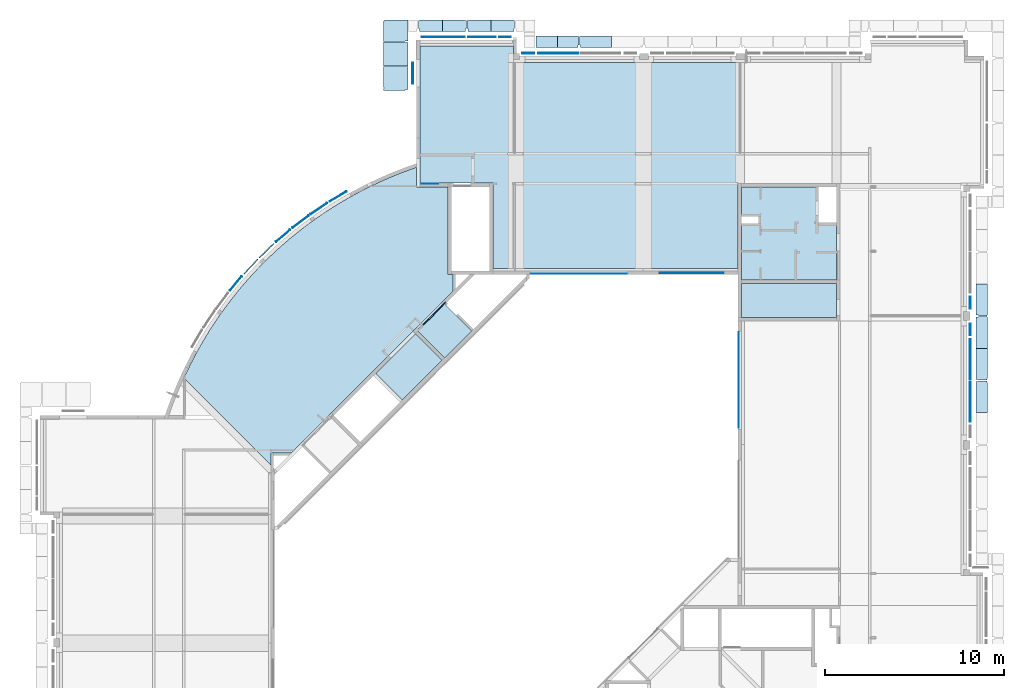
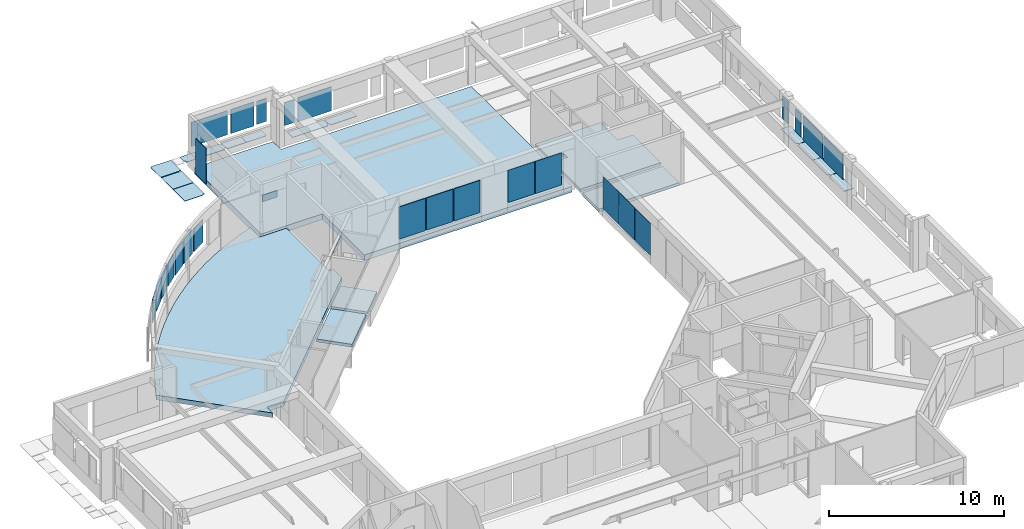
# One storey, part 8 of 26: 27 plates, 21 slabs, 1 element without a shape of its own.
"""IFC4X3_ADD2 building model written with IfcOpenShell, lengths in millimetres."""

from ifc_helpers import new_model, si_unit, point, direction, frame, frame_2d, origin_with_axes, origin_2d_with_axis, place, context, subcontext, project, spatial, polyline, circle_curve, trimmed, segment, composite_curve, rectangle, outline, extrude, source, transform, mapped, material, type_object, element, aggregate, save


model = new_model("IFC4X3_ADD2")

# Units and contexts
model_context = context("Model", 3, precision=1e-05, world=origin_with_axes(), true_north=direction((0.0, 1.0)))
body_context = subcontext(model_context, "Body", "Model", "MODEL_VIEW")
ifc_project = project(units=[si_unit("LENGTHUNIT", "METRE", prefix="MILLI"), si_unit("AREAUNIT", "SQUARE_METRE"), si_unit("VOLUMEUNIT", "CUBIC_METRE"), si_unit("PLANEANGLEUNIT", "RADIAN"), si_unit("TIMEUNIT", "SECOND"), si_unit("MASSUNIT", "GRAM")], contexts=[model_context])

# Site, building, storey
site_placement = place(None, origin_with_axes())
site = spatial("IfcSite", under=ifc_project, at=site_placement, Name="Site", CompositionType="ELEMENT")
building_placement = place(site_placement, origin_with_axes())
building = spatial("IfcBuilding", under=site, at=building_placement, Name="IFC Building Story")
storey_placement = place(building_placement, frame((0.0, 0.0, 7200.0), z_axis=(0.0, 0.0, 1.0), x_axis=(1.0, 0.0, 0.0)))
storey = spatial("IfcBuildingStorey", under=building, at=storey_placement, Name="020", Elevation=7200.0)

# Slabs
ifc_material_1 = material(Name="BB_Beton_Bestaand")
slab_type_1 = type_object("IfcSlabType", Name="BB_Beton_Bestaand 200", PredefinedType="FLOOR", material=ifc_material_1)
slab_1_placement = place(storey_placement, frame((-12500.00406588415, 38300.00000000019, -280.0), z_axis=(0.0, 0.0, 1.0), x_axis=(1.0, 0.0, 0.0)))
element("IfcSlab", 1, at=slab_1_placement, inside=storey, type_object=slab_type_1, Name="Floor:BB_XX_Vloer uit beton, 200 mm", ObjectType="Floor:BB_XX_Vloer uit beton, 200 mm", PredefinedType="FLOOR", context=body_context, shape_type="SweptSolid", body=[
    extrude(outline(polyline([(3190.002439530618, 181.9999999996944), (3190.002439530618, -3017.999999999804), (-2110.001626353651, -3017.999999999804), (-2110.001626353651, 122.0000000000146), (-1160.001626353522, 122.0000000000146), (-1160.001626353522, 532.0000000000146), (-2110.001626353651, 532.0000000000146), (-2110.001626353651, 2182.000000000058), (2190.002439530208, 2182.000000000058), (2190.002439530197, 181.9999999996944), (3190.002439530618, 181.9999999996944)])), frame((2110.001626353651, 3017.999999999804, 0.0), z_axis=(0.0, 0.0, 1.0), x_axis=(1.0, 0.0, 0.0)), (0.0, 0.0, 1.0), 200.0),
])
slab_2_placement = place(storey_placement, frame((-12500.00406588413, 36199.99999999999, -400.0), z_axis=(0.0, 0.0, 1.0), x_axis=(1.0, 0.0, 0.0)))
element("IfcSlab", 2, at=slab_2_placement, inside=storey, type_object=slab_type_1, Name="Floor:BB_XX_Vloer uit beton, 200 mm", ObjectType="Floor:BB_XX_Vloer uit beton, 200 mm", PredefinedType="FLOOR", context=body_context, shape_type="SweptSolid", body=[
    extrude(rectangle(XDim=5300.004065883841, YDim=1900.000000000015, at=origin_2d_with_axis()), frame((2650.00203294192, 950.0000000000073, 0.0), z_axis=(0.0, 0.0, 1.0), x_axis=(1.0, 0.0, 0.0)), (0.0, 0.0, 1.0), 200.0),
])
for number, where, z_axis, x_axis in (
    (3, (-30719.00667860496, 35293.98755288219, -400.0), (0.0, 0.0, 1.0), (-0.7071067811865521, -0.707106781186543, 0.0)),
    (4, (-30719.00667860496, 35293.98755288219, -400.0), (0.0, 0.0, 1.0), (-0.7071067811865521, -0.707106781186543, 0.0)),
):
    element("IfcSlab", number, at=place(storey_placement, frame(where, z_axis=z_axis, x_axis=x_axis)), inside=storey, type_object=slab_type_1, Name="Floor:BB_XX_Vloer uit beton, 200 mm", ObjectType="Floor:BB_XX_Vloer uit beton, 200 mm", PredefinedType="FLOOR", context=body_context, shape_type="SweptSolid", body=[
        extrude(rectangle(XDim=3139.999999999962, YDim=2099.99999999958, at=frame_2d((0.0, 0.0), x_axis=(-1.0, 0.0))), frame((1569.999999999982, 1049.999999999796, 0.0), z_axis=(0.0, 0.0, 1.0), x_axis=(1.0, 0.0, 0.0)), (0.0, 0.0, 1.0), 200.0),
    ])
slab_type_2 = type_object("IfcSlabType", Name="BB_Beton_Bestaand 400", PredefinedType="FLOOR", material=ifc_material_1)
slab_3_placement = place(storey_placement, frame((-30470.00000006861, 38945.00000000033, -600.0), z_axis=(0.0, 0.0, 1.0), x_axis=(1.0, 0.0, 0.0)))
element("IfcSlab", 5, at=slab_3_placement, inside=storey, type_object=slab_type_2, Name="Floor:BB_XX_Vloer welfsels, 400 mm", ObjectType="Floor:BB_XX_Vloer welfsels, 400 mm", PredefinedType="FLOOR", context=body_context, shape_type="SweptSolid", body=[
    extrude(outline(polyline([(-2692.49898351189, -7168.749999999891), (-2692.498983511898, -2413.749999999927), (-6762.498983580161, -2413.749999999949), (-6762.498983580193, 5241.24999999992), (-1552.498983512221, 5241.249999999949), (-1552.498983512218, 4341.249999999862), (11007.49695060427, 4341.24999999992), (11007.49695060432, -7168.749999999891), (-2692.49898351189, -7168.749999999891)])), frame((6762.49898358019, 7168.749999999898, 0.0), z_axis=(0.0, 0.0, 1.0), x_axis=(1.0, 0.0, 0.0)), (0.0, 0.0, 1.0), 400.0),
])

# Plates
ifc_material_2 = material(Name="BB_Metaal_Aluminium_Buitenschrijnwerk")
shared_shape_1 = source(origin_with_axes(), body_context, "Body", "SweptSolid", [
    extrude(rectangle(XDim=2473.0, YDim=1164.000000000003, at=frame_2d((0.0, 0.0), x_axis=(0.0, 1.0))), frame((0.0, 0.0, -44.0), z_axis=(0.0, 0.0, 1.0), x_axis=(1.0, 0.0, 0.0)), (0.0, 0.0, 1.0), 44.0),
])
plate_1_placement = place(storey_placement, frame((-30897.4999999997, 49845.0, 1323.499999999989), z_axis=(-1.0, 0.0, 0.0), x_axis=(0.0, 1.0, 0.0)))
element("IfcPlate", 6, at=plate_1_placement, inside=storey, material=ifc_material_2, Name="BB_07.06_Buitenbeglazing, rechthoekig_GMO:07.04.63#01_Vulpaneel, 44 mm", ObjectType="BB_07.06_Buitenbeglazing, rechthoekig_GMO:07.04.63#01_Vulpaneel, 44 mm", PredefinedType="USERDEFINED", context=body_context, shape_type="MappedRepresentation", body=[
    mapped(shared_shape_1, transform((0.0, 0.0, 0.0))),
])
ifc_material_3 = material(Name="BB_Glas")
shared_shape_2 = source(origin_with_axes(), body_context, "Body", "SweptSolid", [
    extrude(rectangle(XDim=1602.000000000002, YDim=652.000000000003, at=frame_2d((0.0, 0.0), x_axis=(0.0, 1.0))), frame((0.0, 0.0, -44.0), z_axis=(0.0, 0.0, 1.0), x_axis=(1.0, 0.0, 0.0)), (0.0, 0.0, 1.0), 44.0),
])
plate_2_placement = place(storey_placement, frame((-25729.0, 51887.5000000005, 1765.0), z_axis=(0.0, 1.0, 0.0), x_axis=(-1.0, 0.0, 0.0)))
element("IfcPlate", 7, at=plate_2_placement, inside=storey, material=ifc_material_3, Name="BB_07.06_Buitenbeglazing, rechthoekig_GMO:07.06.72#01_Drievoudige beglazing, 44 mm, A/A*/A", ObjectType="BB_07.06_Buitenbeglazing, rechthoekig_GMO:07.06.72#01_Drievoudige beglazing, 44 mm, A/A*/A", PredefinedType="USERDEFINED", context=body_context, shape_type="MappedRepresentation", body=[
    mapped(shared_shape_2, transform((0.0, 0.0, 0.0))),
])
shared_shape_3 = source(origin_with_axes(), body_context, "Body", "SweptSolid", [
    extrude(rectangle(XDim=1602.000000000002, YDim=652.0000000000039, at=frame_2d((0.0, 0.0), x_axis=(0.0, 1.0))), frame((0.0, 0.0, -44.0), z_axis=(0.0, 0.0, 1.0), x_axis=(1.0, 0.0, 0.0)), (0.0, 0.0, 1.0), 44.0),
])
for number, where, z_axis, x_axis in (
    (8, (287.500000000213, 35536.0, 1765.0), (1.0, 0.0, 0.0), (0.0, -1.0, 0.0)),
    (9, (287.500000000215, 37024.0, 1765.0), (1.0, 0.0, 0.0), (0.0, -1.0, 0.0)),
    (10, (-24421.0, 50987.5000000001, 1765.0), (0.0, 1.0, 0.0), (1.0, 0.0, 0.0)),
):
    element("IfcPlate", number, at=place(storey_placement, frame(where, z_axis=z_axis, x_axis=x_axis)), inside=storey, material=ifc_material_3, Name="BB_07.06_Buitenbeglazing, rechthoekig_GMO:07.06.72#01_Drievoudige beglazing, 44 mm, A/A*/A", ObjectType="BB_07.06_Buitenbeglazing, rechthoekig_GMO:07.06.72#01_Drievoudige beglazing, 44 mm, A/A*/A", PredefinedType="USERDEFINED", context=body_context, shape_type="MappedRepresentation", body=[
        mapped(shared_shape_3, transform((0.0, 0.0, 0.0))),
    ])
shared_shape_4 = source(origin_with_axes(), body_context, "Body", "SweptSolid", [
    extrude(rectangle(XDim=1680.000000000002, YDim=1532.000000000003, at=frame_2d((0.0, 0.0), x_axis=(0.0, 1.0))), frame((0.0, 0.0, -44.0), z_axis=(0.0, 0.0, 1.0), x_axis=(1.0, 0.0, 0.0)), (0.0, 0.0, 1.0), 44.0),
])
plate_3_placement = place(storey_placement, frame((-26999.0, 51887.5000000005, 1765.0), z_axis=(0.0, 1.0, 0.0), x_axis=(-1.0, 0.0, 0.0)))
element("IfcPlate", 11, at=plate_3_placement, inside=storey, material=ifc_material_3, Name="BB_07.06_Buitenbeglazing, rechthoekig_GMO:07.06.72#01_Drievoudige beglazing, 44 mm, A/A*/A", ObjectType="BB_07.06_Buitenbeglazing, rechthoekig_GMO:07.06.72#01_Drievoudige beglazing, 44 mm, A/A*/A", PredefinedType="USERDEFINED", context=body_context, shape_type="MappedRepresentation", body=[
    mapped(shared_shape_4, transform((0.0, 0.0, 0.0))),
])
shared_shape_5 = source(origin_with_axes(), body_context, "Body", "SweptSolid", [
    extrude(rectangle(XDim=2400.0, YDim=1680.000000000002, at=origin_2d_with_axis()), frame((0.0, 0.0, -44.0), z_axis=(0.0, 0.0, 1.0), x_axis=(1.0, 0.0, 0.0)), (0.0, 0.0, 1.0), 44.0),
])
plate_4_placement = place(storey_placement, frame((-29165.0, 51887.5000000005, 1765.0), z_axis=(0.0, 1.0, 0.0), x_axis=(-1.0, 0.0, 0.0)))
element("IfcPlate", 12, at=plate_4_placement, inside=storey, material=ifc_material_3, Name="BB_07.06_Buitenbeglazing, rechthoekig_GMO:07.06.72#01_Drievoudige beglazing, 44 mm, A/A*/A", ObjectType="BB_07.06_Buitenbeglazing, rechthoekig_GMO:07.06.72#01_Drievoudige beglazing, 44 mm, A/A*/A", PredefinedType="USERDEFINED", context=body_context, shape_type="MappedRepresentation", body=[
    mapped(shared_shape_5, transform((0.0, 0.0, 0.0))),
])
shared_shape_6 = source(origin_with_axes(), body_context, "Body", "SweptSolid", [
    extrude(rectangle(XDim=2222.0, YDim=1680.000000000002, at=origin_2d_with_axis()), frame((0.0, 0.0, -44.0), z_axis=(0.0, 0.0, 1.0), x_axis=(1.0, 0.0, 0.0)), (0.0, 0.0, 1.0), 44.0),
])
for number, where, z_axis, x_axis in (
    (13, (287.500000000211, 33861.0, 1765.0), (1.0, 0.0, 0.0), (0.0, -1.0, 0.0)),
    (14, (287.500000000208, 31499.0, 1765.0), (1.0, 0.0, 0.0), (0.0, -1.0, 0.0)),
    (15, (-22746.0, 50987.5000000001, 1765.0), (0.0, 1.0, 0.0), (1.0, 0.0, 0.0)),
):
    element("IfcPlate", number, at=place(storey_placement, frame(where, z_axis=z_axis, x_axis=x_axis)), inside=storey, material=ifc_material_3, Name="BB_07.06_Buitenbeglazing, rechthoekig_GMO:07.06.72#01_Drievoudige beglazing, 44 mm, A/A*/A", ObjectType="BB_07.06_Buitenbeglazing, rechthoekig_GMO:07.06.72#01_Drievoudige beglazing, 44 mm, A/A*/A", PredefinedType="USERDEFINED", context=body_context, shape_type="MappedRepresentation", body=[
        mapped(shared_shape_6, transform((0.0, 0.0, 0.0))),
    ])
shared_shape_7 = source(origin_with_axes(), body_context, "Body", "SweptSolid", [
    extrude(rectangle(XDim=1680.000000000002, YDim=1108.000000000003, at=frame_2d((0.0, 0.0), x_axis=(0.0, 1.0))), frame((0.0, 0.0, -44.0), z_axis=(0.0, 0.0, 1.0), x_axis=(1.0, 0.0, 0.0)), (0.0, 0.0, 1.0), 44.0),
])
for number, where, z_axis, x_axis in (
    (16, (-39063.432480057, 39946.144311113, 1765.0), (-0.6895881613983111, 0.7242017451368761, 0.0), (-0.7242017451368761, -0.6895881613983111, 0.0)),
    (17, (-37157.2787877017, 41567.072049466, 1765.0), (-0.6041911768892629, 0.7968393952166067, 0.0), (-0.7968393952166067, -0.6041911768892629, 0.0)),
    (18, (-36138.2706404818, 42296.1872137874, 1765.0), (-0.5591648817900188, 0.8290564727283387, 0.0), (-0.8290564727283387, -0.5591648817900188, 0.0)),
):
    element("IfcPlate", number, at=place(storey_placement, frame(where, z_axis=z_axis, x_axis=x_axis)), inside=storey, material=ifc_material_3, Name="BB_07.06_Buitenbeglazing, rechthoekig_GMO:07.06.72#01_Drievoudige beglazing, 44 mm, A/A*/A", ObjectType="BB_07.06_Buitenbeglazing, rechthoekig_GMO:07.06.72#01_Drievoudige beglazing, 44 mm, A/A*/A", PredefinedType="USERDEFINED", context=body_context, shape_type="MappedRepresentation", body=[
        mapped(shared_shape_7, transform((0.0, 0.0, 0.0))),
    ])
shared_shape_8 = source(origin_with_axes(), body_context, "Body", "SweptSolid", [
    extrude(rectangle(XDim=1602.000000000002, YDim=1030.000000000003, at=frame_2d((0.0, 0.0), x_axis=(0.0, 1.0))), frame((0.0, 0.0, -44.0), z_axis=(0.0, 0.0, 1.0), x_axis=(1.0, 0.0, 0.0)), (0.0, 0.0, 1.0), 44.0),
])
plate_5_placement = place(storey_placement, frame((-38131.965450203, 40784.1719647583, 1765.0), z_axis=(-0.647662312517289, 0.761927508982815, 0.0), x_axis=(-0.761927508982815, -0.647662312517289, 0.0)))
element("IfcPlate", 19, at=plate_5_placement, inside=storey, material=ifc_material_3, Name="BB_07.06_Buitenbeglazing, rechthoekig_GMO:07.06.72#01_Drievoudige beglazing, 44 mm, A/A*/A", ObjectType="BB_07.06_Buitenbeglazing, rechthoekig_GMO:07.06.72#01_Drievoudige beglazing, 44 mm, A/A*/A", PredefinedType="USERDEFINED", context=body_context, shape_type="MappedRepresentation", body=[
    mapped(shared_shape_8, transform((0.0, 0.0, 0.0))),
])
shared_shape_9 = source(origin_with_axes(), body_context, "Body", "SweptSolid", [
    extrude(rectangle(XDim=1680.000000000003, YDim=1108.000000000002, at=frame_2d((0.0, 0.0), x_axis=(0.0, 1.0))), frame((0.0, 0.0, -44.0), z_axis=(0.0, 0.0, 1.0), x_axis=(1.0, 0.0, 0.0)), (0.0, 0.0, 1.0), 44.0),
])
plate_6_placement = place(storey_placement, frame((-39944.5612097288, 39059.3447265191, 1765.0), z_axis=(-0.7286114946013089, 0.6849272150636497, 0.0), x_axis=(0.6849272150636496, 0.7286114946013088, 0.0)))
element("IfcPlate", 20, at=plate_6_placement, inside=storey, material=ifc_material_3, Name="BB_07.06_Buitenbeglazing, rechthoekig_GMO:07.06.72#01_Drievoudige beglazing, 44 mm, A/A*/A", ObjectType="BB_07.06_Buitenbeglazing, rechthoekig_GMO:07.06.72#01_Drievoudige beglazing, 44 mm, A/A*/A", PredefinedType="USERDEFINED", context=body_context, shape_type="MappedRepresentation", body=[
    mapped(shared_shape_9, transform((0.0, 0.0, 0.0))),
])
shared_shape_10 = source(origin_with_axes(), body_context, "Body", "SweptSolid", [
    extrude(rectangle(XDim=1602.000000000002, YDim=1030.000000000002, at=frame_2d((0.0, 0.0), x_axis=(0.0, 1.0))), frame((0.0, 0.0, -44.0), z_axis=(0.0, 0.0, 1.0), x_axis=(1.0, 0.0, 0.0)), (0.0, 0.0, 1.0), 44.0),
])
plate_7_placement = place(storey_placement, frame((-40776.5486042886, 38122.50607265, 1765.0), z_axis=(-0.7661062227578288, 0.642713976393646, 0.0), x_axis=(0.642713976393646, 0.7661062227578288, 0.0)))
element("IfcPlate", 21, at=plate_7_placement, inside=storey, material=ifc_material_3, Name="BB_07.06_Buitenbeglazing, rechthoekig_GMO:07.06.72#01_Drievoudige beglazing, 44 mm, A/A*/A", ObjectType="BB_07.06_Buitenbeglazing, rechthoekig_GMO:07.06.72#01_Drievoudige beglazing, 44 mm, A/A*/A", PredefinedType="USERDEFINED", context=body_context, shape_type="MappedRepresentation", body=[
    mapped(shared_shape_10, transform((0.0, 0.0, 0.0))),
])
shared_shape_11 = source(origin_with_axes(), body_context, "Body", "SweptSolid", [
    extrude(rectangle(XDim=1602.000000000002, YDim=1096.000000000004, at=frame_2d((0.0, 0.0), x_axis=(0.0, 1.0))), frame((0.0, 0.0, -44.0), z_axis=(0.0, 0.0, 1.0), x_axis=(1.0, 0.0, 0.0)), (0.0, 0.0, 1.0), 44.0),
])
plate_8_placement = place(storey_placement, frame((-35052.9452503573, 42983.1140551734, 1765.0), z_axis=(-0.5114280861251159, 0.8593260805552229, 0.0), x_axis=(0.8593260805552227, 0.5114280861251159, 0.0)))
element("IfcPlate", 22, at=plate_8_placement, inside=storey, material=ifc_material_3, Name="BB_07.06_Buitenbeglazing, rechthoekig_GMO:07.06.72#01_Drievoudige beglazing, 44 mm, A/A*/A", ObjectType="BB_07.06_Buitenbeglazing, rechthoekig_GMO:07.06.72#01_Drievoudige beglazing, 44 mm, A/A*/A", PredefinedType="USERDEFINED", context=body_context, shape_type="MappedRepresentation", body=[
    mapped(shared_shape_11, transform((0.0, 0.0, 0.0))),
])
shared_shape_12 = source(origin_with_axes(), body_context, "Body", "SweptSolid", [
    extrude(rectangle(XDim=2256.0, YDim=1736.000000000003, at=frame_2d((0.0, 0.0), x_axis=(0.0, 1.0))), frame((0.0, 0.0, -17.0), z_axis=(0.0, 0.0, 1.0), x_axis=(1.0, 0.0, 0.0)), (0.0, 0.0, 1.0), 17.0),
])
for number, where, z_axis, x_axis in (
    (23, (-12671.5040658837, 32700.0, 1475.0), (-1.0, 0.0, 0.0), (0.0, 1.0, 0.0)),
    (24, (-12671.5040658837, 30900.0, 1475.0), (-1.0, 0.0, 0.0), (0.0, 1.0, 0.0)),
    (25, (-21600.0, 38633.5000000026, 1475.0), (0.0, -1.0, 0.0), (-1.0, 0.0, 0.0)),
    (26, (-19800.0, 38633.5000000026, 1475.0), (0.0, -1.0, 0.0), (-1.0, 0.0, 0.0)),
    (27, (-23400.0, 38633.5000000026, 1475.0), (0.0, -1.0, 0.0), (-1.0, 0.0, 0.0)),
    (28, (-12671.5040658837, 34500.0, 1475.0), (-1.0, 0.0, 0.0), (0.0, 1.0, 0.0)),
    (29, (-16200.0, 38679.0, 1475.0), (0.0, -1.0, 0.0), (-1.0, 0.0, 0.0)),
    (30, (-14400.0, 38679.0, 1475.0), (0.0, -1.0, 0.0), (-1.0, 0.0, 0.0)),
):
    element("IfcPlate", number, at=place(storey_placement, frame(where, z_axis=z_axis, x_axis=x_axis)), inside=storey, material=ifc_material_3, Name="BB_10.10_Binnenbeglazing, rechthoekig_GMO:10.10.41#02_Enkelvoudige beglazing, 2B2, EI30, 40dB", ObjectType="BB_10.10_Binnenbeglazing, rechthoekig_GMO:10.10.41#02_Enkelvoudige beglazing, 2B2, EI30, 40dB", PredefinedType="USERDEFINED", context=body_context, shape_type="MappedRepresentation", body=[
        mapped(shared_shape_12, transform((0.0, 0.0, 0.0))),
    ])
shared_shape_13 = source(origin_with_axes(), body_context, "Body", "SweptSolid", [
    extrude(rectangle(XDim=928.000000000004, YDim=454.000000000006, at=origin_2d_with_axis()), frame((0.0, 0.0, -17.0), z_axis=(0.0, 0.0, 1.0), x_axis=(1.0, 0.0, 0.0)), (0.0, 0.0, 1.0), 17.0),
])
plate_9_placement = place(storey_placement, frame((-29915.0, 43683.0, 2284.0), z_axis=(0.0, 1.0, 0.0), x_axis=(1.0, 0.0, 0.0)))
element("IfcPlate", 31, at=plate_9_placement, inside=storey, material=ifc_material_3, Name="BB_10.10_Binnenbeglazing, rechthoekig_GMO:XX_Geen", ObjectType="BB_10.10_Binnenbeglazing, rechthoekig_GMO:XX_Geen", PredefinedType="USERDEFINED", context=body_context, shape_type="MappedRepresentation", body=[
    mapped(shared_shape_13, transform((0.0, 0.0, 0.0))),
])

# Slabs
slab_type_3 = type_object("IfcSlabType", Name="BB_Beton_Bestaand 150", PredefinedType="FLOOR", material=ifc_material_1)
slab_4_placement = place(storey_placement, frame((-30611.88000125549, 35469.70358800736, -350.0), z_axis=(0.0, 0.0, 1.0), x_axis=(0.7071067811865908, -0.7071067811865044, 0.0)))
element("IfcSlab", 32, at=slab_4_placement, inside=storey, type_object=slab_type_3, Name="Floor:BB_XX_Vloer uit beton, 150 mm", ObjectType="Floor:BB_XX_Vloer uit beton, 150 mm", PredefinedType="FLOOR", context=body_context, shape_type="SweptSolid", body=[
    extrude(rectangle(XDim=2158.526617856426, YDim=2130.000000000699, at=frame_2d((0.0, 0.0), x_axis=(-1.0, 0.0))), frame((1079.263308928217, 1065.000000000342, 0.0), z_axis=(0.0, 0.0, 1.0), x_axis=(1.0, 0.0, 0.0)), (0.0, 0.0, 1.0), 150.000000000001),
])
slab_type_4 = type_object("IfcSlabType", Name="BB_Beton_Bestaand 330", PredefinedType="FLOOR", material=ifc_material_1)
slab_5_placement = place(storey_placement, frame((-31933.09336828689, 46534.62937304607, -530.0), z_axis=(0.0, 0.0, 1.0), x_axis=(-0.7072857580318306, -0.7069277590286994, 0.0)))
element("IfcSlab", 33, at=slab_5_placement, inside=storey, type_object=slab_type_4, Name="Floor:BB_XX_Vloer welfsels, 330 mm", ObjectType="Floor:BB_XX_Vloer welfsels, 330 mm", PredefinedType="FLOOR", context=body_context, shape_type="SweptSolid", body=[
    extrude(outline(composite_curve([segment(polyline([(-5434.011796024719, 1453.782794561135), (-5629.222665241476, 1648.894856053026)]), True, "CONTINUOUS"), segment(polyline([(-5629.222665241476, 1648.894856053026), (-4968.082576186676, 2310.369756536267)]), True, "CONTINUOUS"), segment(polyline([(-4968.082576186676, 2310.369756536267), (-2010.295812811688, 2311.118501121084)]), True, "CONTINUOUS"), segment(polyline([(-2010.295812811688, 2311.118501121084), (-2010.294547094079, 2306.118501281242)]), True, "CONTINUOUS"), segment(polyline([(-2010.294547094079, 2306.118501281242), (4859.705232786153, 2307.85759728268)]), True, "CONTINUOUS"), segment(polyline([(4859.705232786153, 2307.85759728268), (4859.703967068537, 2312.857597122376)]), True, "CONTINUOUS"), segment(polyline([(4859.703967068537, 2312.857597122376), (7817.490730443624, 2313.606341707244)]), True, "CONTINUOUS"), segment(polyline([(7817.490730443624, 2313.606341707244), (8616.889229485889, 1514.612465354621)]), True, "CONTINUOUS"), segment(polyline([(8616.889229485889, 1514.612465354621), (9101.970676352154, 1999.939564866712)]), True, "CONTINUOUS"), segment(polyline([(9101.970676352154, 1999.939564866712), (9101.97067635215, -4889.464176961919)]), True, "CONTINUOUS"), segment(trimmed(circle_curve(frame_2d((1344.730283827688, 15697.55167029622), x_axis=(1.0, 0.0)), 22000.00000006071), [point((9101.97067635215, -4889.464176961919))], [point((671.4260536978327, -6292.142766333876))], False, "CARTESIAN"), True, "CONTINUOUS"), segment(trimmed(circle_curve(frame_2d((1349.571280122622, 15855.65557716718), x_axis=(1.0, 0.0)), 22158.17800299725), [point((671.4260536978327, -6292.142766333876))], [point((-8426.15072390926, -4029.517585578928))], False, "CARTESIAN"), True, "CONTINUOUS"), segment(polyline([(-8426.15072390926, -4029.517585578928), (-7653.137755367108, -3256.113151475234)]), True, "CONTINUOUS"), segment(polyline([(-7653.137755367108, -3256.113151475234), (-8897.960689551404, -2011.920295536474)]), True, "CONTINUOUS"), segment(polyline([(-8897.960689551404, -2011.920295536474), (-5434.011796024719, 1453.782794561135)]), True, "CONTINUOUS")], self_intersect=False)), frame((8897.960689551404, 6302.448329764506, 0.0), z_axis=(0.0, 0.0, 1.0), x_axis=(1.0, 0.0, 0.0)), (0.0, 0.0, 1.0), 330.0),
])

# Assembly, plate
assembly_placement = place(storey_placement, frame((0.0, 0.0, -7200.0), z_axis=(0.0, 0.0, 1.0), x_axis=(1.0, 0.0, 0.0)))
assembly = element("IfcElementAssembly", 34, at=assembly_placement, inside=storey, Name="Structural Connections Assembly:IPE360 + plaat", ObjectType="Structural Connections Assembly:IPE360 + plaat", AssemblyPlace="NOTDEFINED", PredefinedType="USERDEFINED")
ifc_material_4 = material(Name="BB_Schrijnwerk_Aluminium")
shared_shape_14 = source(origin_with_axes(), body_context, "Body", "SweptSolid", [
    extrude(rectangle(XDim=2419.99999999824, YDim=65.00000000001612, at=frame_2d((0.0, 0.0), x_axis=(0.7071067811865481, 0.7071067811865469))), frame((878.580175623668, 878.5801756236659, 0.0), z_axis=(0.0, 0.0, 1.0), x_axis=(1.0, 0.0, 0.0)), (0.0, 0.0, 1.0), 9.99999999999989),
])
plate_10_placement = place(assembly_placement, frame((-30785.1211626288, 35314.1400961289, 10439.50000000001), z_axis=(0.0, 0.0, 1.0), x_axis=(1.0, 0.0, 0.0)))
plate_10 = element("IfcPlate", 35, at=plate_10_placement, material=ifc_material_4, Name="plate2:plate", ObjectType="plate2:plate", PredefinedType="USERDEFINED", context=body_context, shape_type="MappedRepresentation", body=[
    mapped(shared_shape_14, transform((0.0, 0.0, 0.0))),
])
aggregate(assembly, [plate_10])

# Slabs
ifc_material_5 = material(Name="Steel, Galvanized - looprooster")
slab_type_5 = type_object("IfcSlabType", Name="Steel, Galvanized - looprooster 30", PredefinedType="FLOOR", material=ifc_material_5)
slab_6_placement = place(storey_placement, frame((-32510.00048070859, 51619.0012588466, -350.0), z_axis=(0.0, 0.0, 1.0), x_axis=(1.0, 0.0, 0.0)))
element("IfcSlab", 36, at=slab_6_placement, inside=storey, type_object=slab_type_5, Name="Floor:GVH - Looprooster 30 mm", ObjectType="Floor:GVH - Looprooster 30 mm", PredefinedType="FLOOR", context=body_context, shape_type="SweptSolid", body=[
    extrude(outline(polyline([(557.5000000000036, -565.9989790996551), (557.5000000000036, -596.9989790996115), (-652.5, -596.9989790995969), (-652.4999999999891, 558.9997982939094), (-607.4999999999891, 558.9997982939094), (-607.4999999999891, 603.9981599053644), (702.5000000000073, 603.9981599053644), (702.5, -565.9989790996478), (557.5000000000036, -565.9989790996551)])), frame((652.4999999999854, 596.9989790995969, 0.0), z_axis=(0.0, 0.0, 1.0), x_axis=(1.0, 0.0, 0.0)), (0.0, 0.0, 1.0), 29.99999999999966),
])
slab_7_placement = place(storey_placement, frame((-32510.00048070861, 50245.00203624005, -350.0), z_axis=(0.0, 0.0, 1.0), x_axis=(1.0, 0.0, 0.0)))
element("IfcSlab", 37, at=slab_7_placement, inside=storey, type_object=slab_type_5, Name="Floor:GVH - Looprooster 30 mm", ObjectType="Floor:GVH - Looprooster 30 mm", PredefinedType="FLOOR", context=body_context, shape_type="SweptSolid", body=[
    extrude(outline(polyline([(499.9999999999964, 424.6660387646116), (500.0000000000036, -880.3326306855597), (-854.9999999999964, -880.3326306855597), (-855.0000000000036, 455.6665919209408), (354.9999999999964, 455.6665919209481), (354.9999999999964, 424.6660387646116), (499.9999999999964, 424.6660387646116)])), frame((855.0000000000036, 880.3326306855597, 0.0), z_axis=(0.0, 0.0, 1.0), x_axis=(1.0, 0.0, 0.0)), (0.0, 0.0, 1.0), 29.99999999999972),
])
slab_8_placement = place(storey_placement, frame((-32510.00048070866, 48885.00003624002, -350.0), z_axis=(0.0, 0.0, 1.0), x_axis=(1.0, 0.0, 0.0)))
element("IfcSlab", 38, at=slab_8_placement, inside=storey, type_object=slab_type_5, Name="Floor:GVH - Looprooster 30 mm", ObjectType="Floor:GVH - Looprooster 30 mm", PredefinedType="FLOOR", context=body_context, shape_type="SweptSolid", body=[
    extrude(outline(polyline([(-500.9999003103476, -236.6005338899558), (-500.9999003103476, -166.6005338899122), (-515.9999003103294, -166.6005338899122), (-515.9999003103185, 1011.402688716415), (839.0000996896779, 1011.402688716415), (839.000099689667, -271.6010870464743), (693.9996012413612, -271.6010870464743), (693.9996012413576, -336.6005338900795), (-515.9999003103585, -336.600533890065), (-515.9999003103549, -236.6005338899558), (-500.9999003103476, -236.6005338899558)])), frame((515.9999003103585, 336.600533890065, 0.0), z_axis=(0.0, 0.0, 1.0), x_axis=(1.0, 0.0, 0.0)), (0.0, 0.0, 1.0), 29.99999999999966),
])
slab_9_placement = place(storey_placement, frame((-29214.99796376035, 52189.99839785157, -350.0), z_axis=(0.0, 0.0, 1.0), x_axis=(1.0, 0.0, 0.0)))
element("IfcSlab", 39, at=slab_9_placement, inside=storey, type_object=slab_type_5, Name="Floor:GVH - Looprooster 30 mm", ObjectType="Floor:GVH - Looprooster 30 mm", PredefinedType="FLOOR", context=body_context, shape_type="SweptSolid", body=[
    extrude(outline(polyline([(316.4995000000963, -202.5005750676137), (316.4995000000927, -347.5005750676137), (-966.4984999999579, -347.5005750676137), (-966.4984999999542, 282.4999850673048), (281.4994999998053, 282.4999850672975), (281.4994999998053, 267.5011650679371), (368.4995000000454, 267.5011650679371), (368.499500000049, -202.5005750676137), (316.4995000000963, -202.5005750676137)])), frame((966.4984999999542, 347.5005750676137, 0.0), z_axis=(0.0, 0.0, 1.0), x_axis=(1.0, 0.0, 0.0)), (0.0, 0.0, 1.0), 29.99999999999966),
])
slab_10_placement = place(storey_placement, frame((-22786.79233097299, 51289.99784916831, -350.0), z_axis=(0.0, 0.0, 1.0), x_axis=(1.0, 0.0, 0.0)))
element("IfcSlab", 40, at=slab_10_placement, inside=storey, type_object=slab_type_5, Name="Floor:GVH - Looprooster 30 mm", ObjectType="Floor:GVH - Looprooster 30 mm", PredefinedType="FLOOR", context=body_context, shape_type="SweptSolid", body=[
    extrude(outline(polyline([(275.6736571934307, -202.5005722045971), (275.6736571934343, -347.5005722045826), (-879.1186375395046, -347.5005722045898), (-879.1186375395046, 282.4994277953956), (275.6736571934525, 282.4994277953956), (275.6736571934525, 267.5017166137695), (327.7713231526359, 267.5017166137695), (327.7713231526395, -202.5005722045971), (275.6736571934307, -202.5005722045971)])), frame((879.1186375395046, 347.5005722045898, 0.0), z_axis=(0.0, 0.0, 1.0), x_axis=(1.0, 0.0, 0.0)), (0.0, 0.0, 1.0), 29.99999999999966),
])
slab_11_placement = place(storey_placement, frame((589.998741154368, 38079.49796376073, -350.0), z_axis=(0.0, 0.0, 1.0), x_axis=(0.0, -1.0, 0.0)))
element("IfcSlab", 41, at=slab_11_placement, inside=storey, type_object=slab_type_5, Name="Floor:GVH - Looprooster 30 mm", ObjectType="Floor:GVH - Looprooster 30 mm", PredefinedType="FLOOR", context=body_context, shape_type="SweptSolid", body=[
    extrude(outline(polyline([(472.1244999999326, -202.4983406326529), (420.1244999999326, -202.4983406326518), (420.1244999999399, -347.5004386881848), (-1312.373499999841, -347.5004386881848), (-1312.373499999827, 282.4992180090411), (420.1244999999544, 282.4992180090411), (420.1244999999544, 267.4995613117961), (472.1244999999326, 267.4995613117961), (472.1244999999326, -202.4983406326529)])), frame((1312.373499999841, 347.5004386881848, 0.0), z_axis=(0.0, 0.0, 1.0), x_axis=(1.0, 0.0, 0.0)), (0.0, 0.0, 1.0), 29.99999999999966),
])
slab_12_placement = place(storey_placement, frame((-30549.99996376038, 52189.99839785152, -350.0), z_axis=(0.0, 0.0, 1.0), x_axis=(1.0, 0.0, 0.0)))
element("IfcSlab", 42, at=slab_12_placement, inside=storey, type_object=slab_type_5, Name="Floor:GVH - Looprooster 30 mm", ObjectType="Floor:GVH - Looprooster 30 mm", PredefinedType="FLOOR", context=body_context, shape_type="SweptSolid", body=[
    extrude(outline(polyline([(-307.7504524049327, -347.5005722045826), (-307.7504524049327, -202.5005722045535), (-359.7504524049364, -202.5005722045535), (-359.7504524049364, 267.5017166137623), (-307.7506427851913, 267.5017166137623), (-307.7506427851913, 282.4994277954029), (975.2515475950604, 282.4994277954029), (975.2515475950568, -347.5005722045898), (-307.7504524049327, -347.5005722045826)])), frame((359.7504524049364, 347.5005722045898, 0.0), z_axis=(0.0, 0.0, 1.0), x_axis=(1.0, 0.0, 0.0)), (0.0, 0.0, 1.0), 29.99999999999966),
])
slab_13_placement = place(storey_placement, frame((-27849.99996376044, 52189.99839785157, -350.0), z_axis=(0.0, 0.0, 1.0), x_axis=(1.0, 0.0, 0.0)))
element("IfcSlab", 43, at=slab_13_placement, inside=storey, type_object=slab_type_5, Name="Floor:GVH - Looprooster 30 mm", ObjectType="Floor:GVH - Looprooster 30 mm", PredefinedType="FLOOR", context=body_context, shape_type="SweptSolid", body=[
    extrude(outline(polyline([(-316.4995000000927, -347.500575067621), (-316.4995000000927, -202.5005750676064), (-368.499500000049, -202.5005750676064), (-368.499500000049, 267.5011650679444), (-281.4994999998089, 267.5011650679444), (-281.4994999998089, 282.4999850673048), (966.498499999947, 282.4999850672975), (966.4984999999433, -347.500575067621), (-316.4995000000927, -347.500575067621)])), frame((368.499500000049, 347.500575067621, 0.0), z_axis=(0.0, 0.0, 1.0), x_axis=(1.0, 0.0, 0.0)), (0.0, 0.0, 1.0), 29.99999999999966),
])
slab_14_placement = place(storey_placement, frame((-26514.4979637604, 52189.99783771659, -350.0), z_axis=(0.0, 0.0, 1.0), x_axis=(1.0, 0.0, 0.0)))
element("IfcSlab", 44, at=slab_14_placement, inside=storey, type_object=slab_type_5, Name="Floor:GVH - Looprooster 30 mm", ObjectType="Floor:GVH - Looprooster 30 mm", PredefinedType="FLOOR", context=body_context, shape_type="SweptSolid", body=[
    extrude(outline(polyline([(307.6220493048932, -202.500575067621), (307.6220493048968, -347.5005750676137), (-974.8759506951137, -347.500575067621), (-974.8759506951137, 282.4999850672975), (307.6318520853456, 282.4999850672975), (307.6318520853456, 267.5011650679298), (359.6220493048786, 267.5011650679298), (359.6220493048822, -202.500575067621), (307.6220493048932, -202.500575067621)])), frame((974.8759506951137, 347.500575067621, 0.0), z_axis=(0.0, 0.0, 1.0), x_axis=(1.0, 0.0, 0.0)), (0.0, 0.0, 1.0), 29.99999999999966),
])
slab_15_placement = place(storey_placement, frame((-21549.90237028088, 51289.99784916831, -350.0), z_axis=(0.0, 0.0, 1.0), x_axis=(1.0, 0.0, 0.0)))
element("IfcSlab", 45, at=slab_15_placement, inside=storey, type_object=slab_type_5, Name="Floor:GVH - Looprooster 30 mm", ObjectType="Floor:GVH - Looprooster 30 mm", PredefinedType="FLOOR", context=body_context, shape_type="SweptSolid", body=[
    extrude(outline(polyline([(-420.3253428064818, -347.5005722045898), (-420.3253428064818, -202.5005722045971), (-472.2276768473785, -202.5005722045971), (-472.2276768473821, 267.5017166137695), (-420.3253428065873, 267.5017166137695), (-420.3253428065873, 282.4994277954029), (1312.878362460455, 282.4994277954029), (1312.878362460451, -347.5005722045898), (-420.3253428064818, -347.5005722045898)])), frame((472.2276768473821, 347.5005722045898, 0.0), z_axis=(0.0, 0.0, 1.0), x_axis=(1.0, 0.0, 0.0)), (0.0, 0.0, 1.0), 29.99999999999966),
])
slab_16_placement = place(storey_placement, frame((-23996.0012588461, 51289.9983978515, -350.0), z_axis=(0.0, 0.0, 1.0), x_axis=(1.0, 0.0, 0.0)))
element("IfcSlab", 46, at=slab_16_placement, inside=storey, type_object=slab_type_5, Name="Floor:GVH - Looprooster 30 mm", ObjectType="Floor:GVH - Looprooster 30 mm", PredefinedType="FLOOR", context=body_context, shape_type="SweptSolid", body=[
    extrude(rectangle(XDim=1207.998000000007, YDim=629.9999999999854, at=origin_2d_with_axis()), frame((603.9990000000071, 314.9999999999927, 0.0), z_axis=(0.0, 0.0, 1.0), x_axis=(1.0, 0.0, 0.0)), (0.0, 0.0, 1.0), 29.99999999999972),
])
slab_17_placement = place(storey_placement, frame((589.998741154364, 36265.00000000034, -350.0), z_axis=(0.0, 0.0, 1.0), x_axis=(0.0, -1.0, 0.0)))
element("IfcSlab", 47, at=slab_17_placement, inside=storey, type_object=slab_type_5, Name="Floor:GVH - Looprooster 30 mm", ObjectType="Floor:GVH - Looprooster 30 mm", PredefinedType="FLOOR", context=body_context, shape_type="SweptSolid", body=[
    extrude(outline(polyline([(-420.2494637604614, 282.499218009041), (1312.748500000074, 282.499218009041), (1312.748500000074, -347.500438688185), (-420.249536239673, -347.500438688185), (-420.249536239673, -202.498340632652), (-472.2494999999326, -202.498340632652), (-472.2494999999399, 267.499561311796), (-420.2494637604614, 267.499561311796), (-420.2494637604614, 282.499218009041)])), frame((472.2494999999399, 347.500438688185, 0.0), z_axis=(0.0, 0.0, 1.0), x_axis=(1.0, 0.0, 0.0)), (0.0, 0.0, 1.0), 29.99999999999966),
])
slab_18_placement = place(storey_placement, frame((589.998733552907, 32664.99996376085, -350.0), z_axis=(0.0, 0.0, 1.0), x_axis=(0.0, -1.0, 0.0)))
element("IfcSlab", 48, at=slab_18_placement, inside=storey, type_object=slab_type_5, Name="Floor:GVH - Looprooster 30 mm", ObjectType="Floor:GVH - Looprooster 30 mm", PredefinedType="FLOOR", context=body_context, shape_type="SweptSolid", body=[
    extrude(outline(polyline([(-394.3745000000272, 282.499218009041), (1304.123500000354, 282.499218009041), (1304.123500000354, -347.5004386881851), (-428.8745000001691, -347.5004386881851), (-428.8745000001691, -202.4983406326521), (-480.8745000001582, -202.4983406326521), (-480.8745000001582, 267.4995613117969), (-394.3745000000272, 267.499561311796), (-394.3745000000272, 282.499218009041)])), frame((480.8745000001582, 347.5004386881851, 0.0), z_axis=(0.0, 0.0, 1.0), x_axis=(1.0, 0.0, 0.0)), (0.0, 0.0, 1.0), 29.99999999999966),
])
slab_19_placement = place(storey_placement, frame((589.998741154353, 34479.49796376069, -350.0), z_axis=(0.0, 0.0, 1.0), x_axis=(0.0, -1.0, 0.0)))
element("IfcSlab", 49, at=slab_19_placement, inside=storey, type_object=slab_type_5, Name="Floor:GVH - Looprooster 30 mm", ObjectType="Floor:GVH - Looprooster 30 mm", PredefinedType="FLOOR", context=body_context, shape_type="SweptSolid", body=[
    extrude(outline(polyline([(480.8744637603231, -202.4983406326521), (428.8745362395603, -202.4983406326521), (428.8745362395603, -347.5004386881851), (-1303.623463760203, -347.5004386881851), (-1303.623463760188, 282.4992180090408), (393.8744637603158, 282.4992180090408), (393.8744637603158, 267.4995613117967), (480.8744637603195, 267.4995613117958), (480.8744637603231, -202.4983406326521)])), frame((1303.623463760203, 347.5004386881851, 0.0), z_axis=(0.0, 0.0, 1.0), x_axis=(1.0, 0.0, 0.0)), (0.0, 0.0, 1.0), 29.99999999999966),
])

save(model, "model.ifc")
